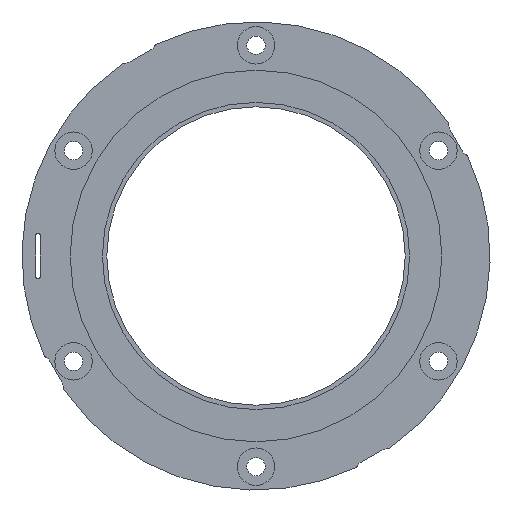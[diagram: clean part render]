
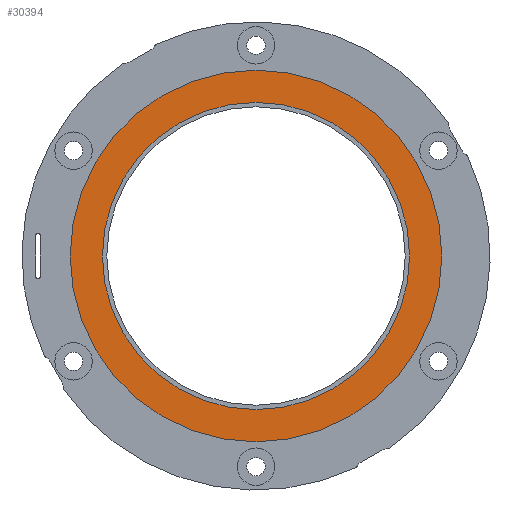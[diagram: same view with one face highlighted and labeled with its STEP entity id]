
A CAD part, front view. The second image highlights one B-rep face of the part: STEP entity #30394.
In plain terms, the highlighted planar face has unit normal (0, -1, 0).
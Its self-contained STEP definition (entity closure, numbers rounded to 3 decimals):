
#669 = DIRECTION ( 'NONE',  ( -0.5, 0., 0.866 ) ) ;
#2228 = PLANE ( 'NONE',  #9538 ) ;
#5488 = VERTEX_POINT ( 'NONE', #28875 ) ;
#7354 = CIRCLE ( 'NONE', #45712, 26.25 ) ;
#7688 = EDGE_LOOP ( 'NONE', ( #37213, #52969 ) ) ;
#8503 = VERTEX_POINT ( 'NONE', #66492 ) ;
#8614 = DIRECTION ( 'NONE',  ( -0.5, 0., 0.866 ) ) ;
#8798 = CIRCLE ( 'NONE', #45771, 31.75 ) ;
#9538 = AXIS2_PLACEMENT_3D ( 'NONE', #72762, #27850, #8614 ) ;
#11021 = DIRECTION ( 'NONE',  ( -0.5, 0., 0.866 ) ) ;
#12298 = CARTESIAN_POINT ( 'NONE',  ( 0., -1.601, 0. ) ) ;
#18276 = ORIENTED_EDGE ( 'NONE', *, *, #83600, .T. ) ;
#20290 = EDGE_CURVE ( 'NONE', #5488, #22081, #7354, .T. ) ;
#20767 = CIRCLE ( 'NONE', #23469, 31.75 ) ;
#21071 = CARTESIAN_POINT ( 'NONE',  ( 0., -1.601, 0. ) ) ;
#21960 = CARTESIAN_POINT ( 'NONE',  ( 0., -1.601, 0. ) ) ;
#22081 = VERTEX_POINT ( 'NONE', #60113 ) ;
#23469 = AXIS2_PLACEMENT_3D ( 'NONE', #12298, #31094, #11021 ) ;
#24608 = CARTESIAN_POINT ( 'NONE',  ( 0., -1.601, 0. ) ) ;
#27850 = DIRECTION ( 'NONE',  ( 0., -1., 0. ) ) ;
#28272 = FACE_OUTER_BOUND ( 'NONE', #76658, .T. ) ;
#28392 = DIRECTION ( 'NONE',  ( 0., -1., 0. ) ) ;
#28875 = CARTESIAN_POINT ( 'NONE',  ( -13.125, -1.601, 22.733 ) ) ;
#29122 = CARTESIAN_POINT ( 'NONE',  ( -15.875, -1.601, 27.496 ) ) ;
#30394 = ADVANCED_FACE ( 'NONE', ( #28272, #73176 ), #2228, .T. ) ;
#31094 = DIRECTION ( 'NONE',  ( 0., -1., 0. ) ) ;
#33128 = VERTEX_POINT ( 'NONE', #29122 ) ;
#37213 = ORIENTED_EDGE ( 'NONE', *, *, #66025, .F. ) ;
#40747 = DIRECTION ( 'NONE',  ( -0.5, 0., 0.866 ) ) ;
#45042 = ORIENTED_EDGE ( 'NONE', *, *, #49342, .T. ) ;
#45712 = AXIS2_PLACEMENT_3D ( 'NONE', #24608, #70368, #57165 ) ;
#45771 = AXIS2_PLACEMENT_3D ( 'NONE', #21960, #28392, #669 ) ;
#47071 = AXIS2_PLACEMENT_3D ( 'NONE', #21071, #54019, #40747 ) ;
#49342 = EDGE_CURVE ( 'NONE', #8503, #33128, #8798, .T. ) ;
#52969 = ORIENTED_EDGE ( 'NONE', *, *, #20290, .F. ) ;
#54019 = DIRECTION ( 'NONE',  ( 0., -1., 0. ) ) ;
#57165 = DIRECTION ( 'NONE',  ( -0.5, 0., 0.866 ) ) ;
#60113 = CARTESIAN_POINT ( 'NONE',  ( 13.125, -1.601, -22.733 ) ) ;
#61992 = CIRCLE ( 'NONE', #47071, 26.25 ) ;
#66025 = EDGE_CURVE ( 'NONE', #22081, #5488, #61992, .T. ) ;
#66492 = CARTESIAN_POINT ( 'NONE',  ( 15.875, -1.601, -27.496 ) ) ;
#70368 = DIRECTION ( 'NONE',  ( 0., -1., 0. ) ) ;
#72762 = CARTESIAN_POINT ( 'NONE',  ( 0., -1.601, 0. ) ) ;
#73176 = FACE_BOUND ( 'NONE', #7688, .T. ) ;
#76658 = EDGE_LOOP ( 'NONE', ( #45042, #18276 ) ) ;
#83600 = EDGE_CURVE ( 'NONE', #33128, #8503, #20767, .T. ) ;
